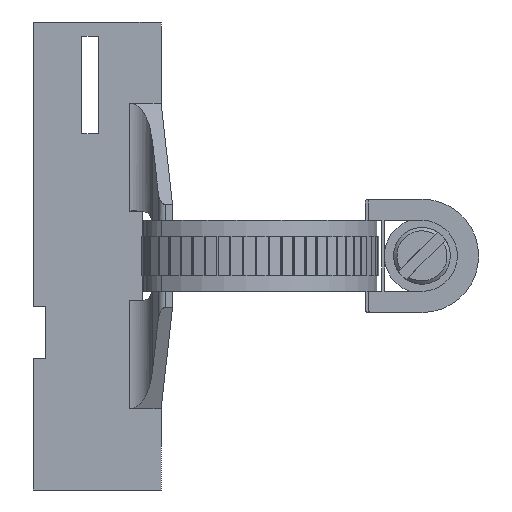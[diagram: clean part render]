
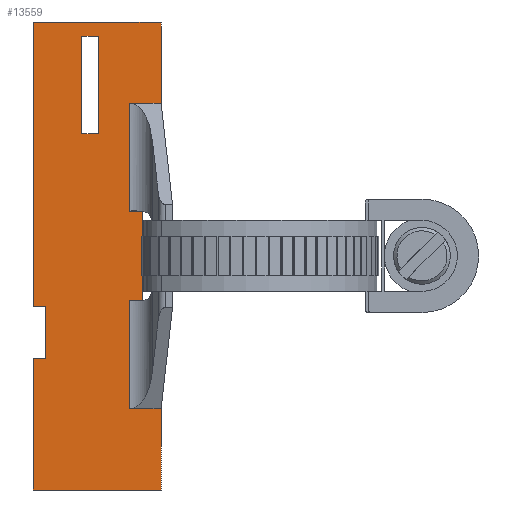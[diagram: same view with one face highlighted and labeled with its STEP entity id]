
A CAD part, front view. The second image highlights one B-rep face of the part: STEP entity #13559.
In plain terms, the highlighted planar face has unit normal (0, -1, 0).
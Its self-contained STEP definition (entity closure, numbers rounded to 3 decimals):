
#409=CARTESIAN_POINT('',(-20.485,5.297,-17.9));
#410=VERTEX_POINT('',#409);
#411=CARTESIAN_POINT('',(-20.485,5.297,-15.1));
#412=VERTEX_POINT('',#411);
#413=CARTESIAN_POINT('',(-20.485,5.297,-17.9));
#414=DIRECTION('',(0.0,0.0,1.0));
#415=VECTOR('',#414,2.8);
#416=LINE('',#413,#415);
#417=EDGE_CURVE('',#410,#412,#416,.T.);
#12956=CARTESIAN_POINT('',(-20.485,5.297,-19.685));
#12957=VERTEX_POINT('',#12956);
#12958=CARTESIAN_POINT('',(-20.485,5.297,-19.685));
#12959=DIRECTION('',(0.0,0.0,1.0));
#12960=VECTOR('',#12959,1.785);
#12961=LINE('',#12958,#12960);
#12962=EDGE_CURVE('',#12957,#410,#12961,.T.);
#13022=CARTESIAN_POINT('',(-20.485,5.297,-13.335));
#13023=VERTEX_POINT('',#13022);
#13031=CARTESIAN_POINT('',(-20.485,5.297,-15.1));
#13032=DIRECTION('',(0.0,0.0,1.0));
#13033=VECTOR('',#13032,1.765);
#13034=LINE('',#13031,#13033);
#13035=EDGE_CURVE('',#412,#13023,#13034,.T.);
#13397=CARTESIAN_POINT('',(-28.155,5.297,0.0));
#13398=DIRECTION('',(0.0,-1.0,0.0));
#13399=DIRECTION('',(0.0,0.0,-1.0));
#13400=AXIS2_PLACEMENT_3D('',#13397,#13398,#13399);
#13401=PLANE('',#13400);
#13402=ORIENTED_EDGE('',*,*,#12962,.T.);
#13403=ORIENTED_EDGE('',*,*,#417,.T.);
#13404=ORIENTED_EDGE('',*,*,#13035,.T.);
#13405=CARTESIAN_POINT('',(-21.364,5.297,-13.335));
#13406=VERTEX_POINT('',#13405);
#13407=CARTESIAN_POINT('',(-21.364,5.297,-13.335));
#13408=DIRECTION('',(1.0,0.0,0.0));
#13409=VECTOR('',#13408,0.879);
#13410=LINE('',#13407,#13409);
#13411=EDGE_CURVE('',#13406,#13023,#13410,.T.);
#13412=ORIENTED_EDGE('',*,*,#13411,.F.);
#13413=CARTESIAN_POINT('',(-21.364,5.297,-5.715));
#13414=VERTEX_POINT('',#13413);
#13415=CARTESIAN_POINT('',(-21.364,5.297,-5.715));
#13416=DIRECTION('',(0.0,0.0,-1.0));
#13417=VECTOR('',#13416,7.62);
#13418=LINE('',#13415,#13417);
#13419=EDGE_CURVE('',#13414,#13406,#13418,.T.);
#13420=ORIENTED_EDGE('',*,*,#13419,.F.);
#13421=CARTESIAN_POINT('',(-19.138,5.297,-5.715));
#13422=VERTEX_POINT('',#13421);
#13423=CARTESIAN_POINT('',(-21.364,5.297,-5.715));
#13424=DIRECTION('',(1.0,0.0,0.0));
#13425=VECTOR('',#13424,2.226);
#13426=LINE('',#13423,#13425);
#13427=EDGE_CURVE('',#13414,#13422,#13426,.T.);
#13428=ORIENTED_EDGE('',*,*,#13427,.T.);
#13429=CARTESIAN_POINT('',(-19.138,5.297,0.0));
#13430=VERTEX_POINT('',#13429);
#13431=CARTESIAN_POINT('',(-19.138,5.297,0.0));
#13432=DIRECTION('',(0.0,0.0,-1.0));
#13433=VECTOR('',#13432,5.715);
#13434=LINE('',#13431,#13433);
#13435=EDGE_CURVE('',#13430,#13422,#13434,.T.);
#13436=ORIENTED_EDGE('',*,*,#13435,.F.);
#13437=CARTESIAN_POINT('',(-28.155,5.297,0.0));
#13438=VERTEX_POINT('',#13437);
#13439=CARTESIAN_POINT('',(-28.155,5.297,0.0));
#13440=DIRECTION('',(1.0,0.0,0.0));
#13441=VECTOR('',#13440,9.017);
#13442=LINE('',#13439,#13441);
#13443=EDGE_CURVE('',#13438,#13430,#13442,.T.);
#13444=ORIENTED_EDGE('',*,*,#13443,.F.);
#13445=CARTESIAN_POINT('',(-28.155,5.297,-20.066));
#13446=VERTEX_POINT('',#13445);
#13447=CARTESIAN_POINT('',(-28.155,5.297,0.0));
#13448=DIRECTION('',(0.0,0.0,-1.0));
#13449=VECTOR('',#13448,20.066);
#13450=LINE('',#13447,#13449);
#13451=EDGE_CURVE('',#13438,#13446,#13450,.T.);
#13452=ORIENTED_EDGE('',*,*,#13451,.T.);
#13453=CARTESIAN_POINT('',(-27.266,5.297,-20.066));
#13454=VERTEX_POINT('',#13453);
#13455=CARTESIAN_POINT('',(-28.155,5.297,-20.066));
#13456=DIRECTION('',(1.0,0.0,0.0));
#13457=VECTOR('',#13456,0.889);
#13458=LINE('',#13455,#13457);
#13459=EDGE_CURVE('',#13446,#13454,#13458,.T.);
#13460=ORIENTED_EDGE('',*,*,#13459,.T.);
#13461=CARTESIAN_POINT('',(-27.266,5.297,-23.749));
#13462=VERTEX_POINT('',#13461);
#13463=CARTESIAN_POINT('',(-27.266,5.297,-20.066));
#13464=DIRECTION('',(0.0,0.0,-1.0));
#13465=VECTOR('',#13464,3.683);
#13466=LINE('',#13463,#13465);
#13467=EDGE_CURVE('',#13454,#13462,#13466,.T.);
#13468=ORIENTED_EDGE('',*,*,#13467,.T.);
#13469=CARTESIAN_POINT('',(-28.155,5.297,-23.749));
#13470=VERTEX_POINT('',#13469);
#13471=CARTESIAN_POINT('',(-27.266,5.297,-23.749));
#13472=DIRECTION('',(-1.0,0.0,0.0));
#13473=VECTOR('',#13472,0.889);
#13474=LINE('',#13471,#13473);
#13475=EDGE_CURVE('',#13462,#13470,#13474,.T.);
#13476=ORIENTED_EDGE('',*,*,#13475,.T.);
#13477=CARTESIAN_POINT('',(-28.155,5.297,-33.02));
#13478=VERTEX_POINT('',#13477);
#13479=CARTESIAN_POINT('',(-28.155,5.297,-23.749));
#13480=DIRECTION('',(0.0,0.0,-1.0));
#13481=VECTOR('',#13480,9.271);
#13482=LINE('',#13479,#13481);
#13483=EDGE_CURVE('',#13470,#13478,#13482,.T.);
#13484=ORIENTED_EDGE('',*,*,#13483,.T.);
#13485=CARTESIAN_POINT('',(-19.138,5.297,-33.02));
#13486=VERTEX_POINT('',#13485);
#13487=CARTESIAN_POINT('',(-19.138,5.297,-33.02));
#13488=DIRECTION('',(-1.0,0.0,0.0));
#13489=VECTOR('',#13488,9.017);
#13490=LINE('',#13487,#13489);
#13491=EDGE_CURVE('',#13486,#13478,#13490,.T.);
#13492=ORIENTED_EDGE('',*,*,#13491,.F.);
#13493=CARTESIAN_POINT('',(-19.138,5.297,-27.305));
#13494=VERTEX_POINT('',#13493);
#13495=CARTESIAN_POINT('',(-19.138,5.297,-27.305));
#13496=DIRECTION('',(0.0,0.0,-1.0));
#13497=VECTOR('',#13496,5.715);
#13498=LINE('',#13495,#13497);
#13499=EDGE_CURVE('',#13494,#13486,#13498,.T.);
#13500=ORIENTED_EDGE('',*,*,#13499,.F.);
#13501=CARTESIAN_POINT('',(-21.364,5.297,-27.305));
#13502=VERTEX_POINT('',#13501);
#13503=CARTESIAN_POINT('',(-21.364,5.297,-27.305));
#13504=DIRECTION('',(1.0,0.0,0.0));
#13505=VECTOR('',#13504,2.226);
#13506=LINE('',#13503,#13505);
#13507=EDGE_CURVE('',#13502,#13494,#13506,.T.);
#13508=ORIENTED_EDGE('',*,*,#13507,.F.);
#13509=CARTESIAN_POINT('',(-21.364,5.297,-19.685));
#13510=VERTEX_POINT('',#13509);
#13511=CARTESIAN_POINT('',(-21.364,5.297,-19.685));
#13512=DIRECTION('',(0.0,0.0,-1.0));
#13513=VECTOR('',#13512,7.62);
#13514=LINE('',#13511,#13513);
#13515=EDGE_CURVE('',#13510,#13502,#13514,.T.);
#13516=ORIENTED_EDGE('',*,*,#13515,.F.);
#13517=CARTESIAN_POINT('',(-21.364,5.297,-19.685));
#13518=DIRECTION('',(1.0,0.0,0.0));
#13519=VECTOR('',#13518,0.879);
#13520=LINE('',#13517,#13519);
#13521=EDGE_CURVE('',#13510,#12957,#13520,.T.);
#13522=ORIENTED_EDGE('',*,*,#13521,.T.);
#13523=EDGE_LOOP('',(#13402,#13403,#13404,#13412,#13420,#13428,#13436,#13444,#13452,#13460,#13468,#13476,#13484,#13492,#13500,#13508,#13516,#13522));
#13524=FACE_OUTER_BOUND('',#13523,.T.);
#13525=CARTESIAN_POINT('',(-24.726,5.297,-7.874));
#13526=VERTEX_POINT('',#13525);
#13527=CARTESIAN_POINT('',(-24.726,5.297,-1.016));
#13528=VERTEX_POINT('',#13527);
#13529=CARTESIAN_POINT('',(-24.726,5.297,-7.874));
#13530=DIRECTION('',(0.0,0.0,1.0));
#13531=VECTOR('',#13530,6.858);
#13532=LINE('',#13529,#13531);
#13533=EDGE_CURVE('',#13526,#13528,#13532,.T.);
#13534=ORIENTED_EDGE('',*,*,#13533,.T.);
#13535=CARTESIAN_POINT('',(-23.583,5.297,-1.016));
#13536=VERTEX_POINT('',#13535);
#13537=CARTESIAN_POINT('',(-24.726,5.297,-1.016));
#13538=DIRECTION('',(1.0,0.0,0.0));
#13539=VECTOR('',#13538,1.143);
#13540=LINE('',#13537,#13539);
#13541=EDGE_CURVE('',#13528,#13536,#13540,.T.);
#13542=ORIENTED_EDGE('',*,*,#13541,.T.);
#13543=CARTESIAN_POINT('',(-23.583,5.297,-7.874));
#13544=VERTEX_POINT('',#13543);
#13545=CARTESIAN_POINT('',(-23.583,5.297,-1.016));
#13546=DIRECTION('',(0.0,0.0,-1.0));
#13547=VECTOR('',#13546,6.858);
#13548=LINE('',#13545,#13547);
#13549=EDGE_CURVE('',#13536,#13544,#13548,.T.);
#13550=ORIENTED_EDGE('',*,*,#13549,.T.);
#13551=CARTESIAN_POINT('',(-23.583,5.297,-7.874));
#13552=DIRECTION('',(-1.0,0.0,0.0));
#13553=VECTOR('',#13552,1.143);
#13554=LINE('',#13551,#13553);
#13555=EDGE_CURVE('',#13544,#13526,#13554,.T.);
#13556=ORIENTED_EDGE('',*,*,#13555,.T.);
#13557=EDGE_LOOP('',(#13534,#13542,#13550,#13556));
#13558=FACE_BOUND('',#13557,.T.);
#13559=ADVANCED_FACE('',(#13524,#13558),#13401,.T.);
